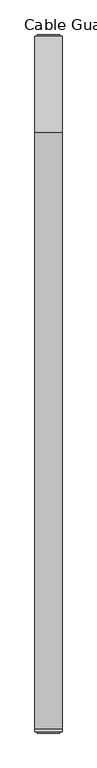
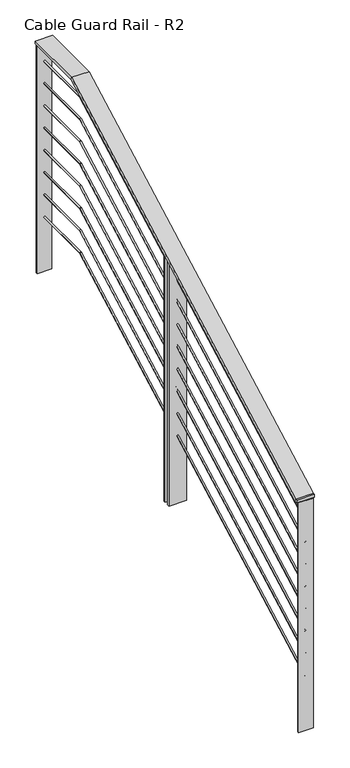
"""IFC4 building model written with IfcOpenShell, lengths in millimetres: railing geometry, Cable Guard Rail - R2."""

from ifc_helpers import new_model, si_unit, frame, origin, place, context, project, spatial, polyline, circle_curve, ellipse_curve, outline, extrude, faceted_brep, source, transform, mapped, element, save
from ifc_brep_helpers import plane_surface, cylinder_surface, advanced_brep


def cable_guard_rail_r2_9b65f9f1(model_context):
    return source(origin(), model_context, "Body", "SolidModel", [
        faceted_brep([(23241.7044304, 188213.6496196, 295014.65), (23241.7044304, 188213.6496196, 295001.95), (23317.9044304, 188213.6496196, 295001.95), (23317.9044304, 188213.6496196, 295014.65), (23241.7044304, 188220.7414421, 295014.65), (23241.7044304, 188223.960099, 295001.95), (23317.9044304, 188223.960099, 295001.95), (23317.9044304, 188220.7414421, 295014.65), (23241.7044304, 189897.1414421, 295922.7), (23241.7044304, 189900.360099, 295910.0), (23317.9044304, 189900.360099, 295910.0), (23317.9044304, 189897.1414421, 295922.7), (23241.7044304, 190169.4496196, 295922.7), (23317.9044304, 190169.4496196, 295922.7), (23317.9044304, 190169.4496196, 295910.0), (23241.7044304, 190169.4496196, 295910.0)], [[[0, 1, 2, 3]], [[1, 0, 4, 5]], [[2, 1, 5, 6]], [[3, 2, 6, 7]], [[0, 3, 7, 4]], [[5, 4, 8, 9]], [[6, 5, 9, 10]], [[7, 6, 10, 11]], [[4, 7, 11, 8]], [[12, 13, 14, 15]], [[9, 8, 12, 15]], [[10, 9, 15, 14]], [[11, 10, 14, 13]], [[8, 11, 13, 12]]]),
        advanced_brep(
        [(23282.9794304, 188213.6496196, 294913.05), (23276.6294304, 188213.6496196, 294913.05), (23282.9794304, 188220.7414421, 294913.05), (23276.6294304, 188220.7414421, 294913.05), (23282.9794304, 189897.1414421, 295821.1), (23276.6294304, 189897.1414421, 295821.1), (23282.9794304, 190169.4496196, 295821.1), (23276.6294304, 190169.4496196, 295821.1)],
        [
            (0, 1, circle_curve(frame((23279.8044304, 188213.6496196, 294913.05), z_axis=(0.0, -1.0, 0.0), x_axis=(-1.0, 0.0, 0.0)), 3.175)),
            (1, 0, circle_curve(frame((23279.8044304, 188213.6496196, 294913.05), z_axis=(0.0, -1.0, 0.0), x_axis=(-1.0, 0.0, 0.0)), 3.175)),
            (0, 2),
            (2, 3, ellipse_curve(frame((23279.8044304, 188220.7414421, 294913.05), z_axis=(0.0, -0.9693533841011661, -0.24567054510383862), x_axis=(0.0, -0.24567054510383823, 0.9693533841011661)), 3.2753793, 3.175)),
            (3, 1),
            (3, 2, ellipse_curve(frame((23279.8044304, 188220.7414421, 294913.05), z_axis=(0.0, -0.9693533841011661, -0.24567054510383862), x_axis=(0.0, -0.24567054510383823, 0.9693533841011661)), 3.2753793, 3.175)),
            (2, 4),
            (4, 5, ellipse_curve(frame((23279.8044304, 189897.1414421, 295821.1), z_axis=(0.0, -0.9693533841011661, -0.24567054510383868), x_axis=(0.0, 0.24567054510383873, -0.969353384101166)), 3.2753793, 3.175)),
            (5, 3),
            (5, 4, ellipse_curve(frame((23279.8044304, 189897.1414421, 295821.1), z_axis=(0.0, -0.9693533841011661, -0.24567054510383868), x_axis=(0.0, 0.24567054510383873, -0.969353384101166)), 3.2753793, 3.175)),
            (6, 7, circle_curve(frame((23279.8044304, 190169.4496196, 295821.1), z_axis=(0.0, 1.0, 0.0), x_axis=(-1.0, 0.0, 0.0)), 3.175)),
            (7, 6, circle_curve(frame((23279.8044304, 190169.4496196, 295821.1), z_axis=(0.0, 1.0, 0.0), x_axis=(-1.0, 0.0, 0.0)), 3.175)),
            (4, 6),
            (7, 5),
        ],
        [
            plane_surface(frame((23279.8044304, 188213.6496196, 294913.05), z_axis=(0.0, -1.0, 0.0), x_axis=(0.0, 0.0, 1.0))),
            cylinder_surface(frame((23279.8044304, 188213.6496196, 294913.05), z_axis=(0.0, -1.0, 0.0), x_axis=(-1.0, 0.0, 0.0)), 3.175),
            cylinder_surface(frame((23279.8044304, 188220.7414421, 294913.05), z_axis=(0.0, -0.8792919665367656, -0.4762831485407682), x_axis=(-1.0, 0.0, 0.0)), 3.175),
            plane_surface(frame((23279.8044304, 190169.4496196, 295821.1), z_axis=(0.0, 1.0, 0.0), x_axis=(0.0, 0.0, 1.0))),
            cylinder_surface(frame((23279.8044304, 189897.1414421, 295821.1), z_axis=(0.0, -1.0, 0.0), x_axis=(-1.0, 0.0, 0.0)), 3.175),
        ],
        [
            (0, [[1, 2]]),
            (1, [[-1, 3, 4, 5]]),
            (1, [[-2, -5, 6, -3]]),
            (2, [[-4, 7, 8, 9]]),
            (2, [[-6, -9, 10, -7]]),
            (3, [[11, 12]]),
            (4, [[-8, 13, -12, 14]]),
            (4, [[-10, -14, -11, -13]]),
        ],
    ),
        advanced_brep(
        [(23282.9794304, 188213.6496196, 294811.45), (23276.6294304, 188213.6496196, 294811.45), (23282.9794304, 188220.7414421, 294811.45), (23276.6294304, 188220.7414421, 294811.45), (23282.9794304, 189897.1414421, 295719.5), (23276.6294304, 189897.1414421, 295719.5), (23282.9794304, 190169.4496196, 295719.5), (23276.6294304, 190169.4496196, 295719.5)],
        [
            (0, 1, circle_curve(frame((23279.8044304, 188213.6496196, 294811.45), z_axis=(0.0, -1.0, 0.0), x_axis=(-1.0, 0.0, 0.0)), 3.175)),
            (1, 0, circle_curve(frame((23279.8044304, 188213.6496196, 294811.45), z_axis=(0.0, -1.0, 0.0), x_axis=(-1.0, 0.0, 0.0)), 3.175)),
            (0, 2),
            (2, 3, ellipse_curve(frame((23279.8044304, 188220.7414421, 294811.45), z_axis=(0.0, -0.9693533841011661, -0.24567054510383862), x_axis=(0.0, -0.24567054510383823, 0.9693533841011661)), 3.2753793, 3.175)),
            (3, 1),
            (3, 2, ellipse_curve(frame((23279.8044304, 188220.7414421, 294811.45), z_axis=(0.0, -0.9693533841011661, -0.24567054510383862), x_axis=(0.0, -0.24567054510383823, 0.9693533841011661)), 3.2753793, 3.175)),
            (2, 4),
            (4, 5, ellipse_curve(frame((23279.8044304, 189897.1414421, 295719.5), z_axis=(0.0, -0.9693533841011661, -0.24567054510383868), x_axis=(0.0, 0.24567054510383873, -0.969353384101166)), 3.2753793, 3.175)),
            (5, 3),
            (5, 4, ellipse_curve(frame((23279.8044304, 189897.1414421, 295719.5), z_axis=(0.0, -0.9693533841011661, -0.24567054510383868), x_axis=(0.0, 0.24567054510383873, -0.969353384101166)), 3.2753793, 3.175)),
            (6, 7, circle_curve(frame((23279.8044304, 190169.4496196, 295719.5), z_axis=(0.0, 1.0, 0.0), x_axis=(-1.0, 0.0, 0.0)), 3.175)),
            (7, 6, circle_curve(frame((23279.8044304, 190169.4496196, 295719.5), z_axis=(0.0, 1.0, 0.0), x_axis=(-1.0, 0.0, 0.0)), 3.175)),
            (4, 6),
            (7, 5),
        ],
        [
            plane_surface(frame((23279.8044304, 188213.6496196, 294811.45), z_axis=(0.0, -1.0, 0.0), x_axis=(0.0, 0.0, 1.0))),
            cylinder_surface(frame((23279.8044304, 188213.6496196, 294811.45), z_axis=(0.0, -1.0, 0.0), x_axis=(-1.0, 0.0, 0.0)), 3.175),
            cylinder_surface(frame((23279.8044304, 188220.7414421, 294811.45), z_axis=(0.0, -0.8792919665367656, -0.4762831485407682), x_axis=(-1.0, 0.0, 0.0)), 3.175),
            plane_surface(frame((23279.8044304, 190169.4496196, 295719.5), z_axis=(0.0, 1.0, 0.0), x_axis=(0.0, 0.0, 1.0))),
            cylinder_surface(frame((23279.8044304, 189897.1414421, 295719.5), z_axis=(0.0, -1.0, 0.0), x_axis=(-1.0, 0.0, 0.0)), 3.175),
        ],
        [
            (0, [[1, 2]]),
            (1, [[-1, 3, 4, 5]]),
            (1, [[-2, -5, 6, -3]]),
            (2, [[-4, 7, 8, 9]]),
            (2, [[-6, -9, 10, -7]]),
            (3, [[11, 12]]),
            (4, [[-8, 13, -12, 14]]),
            (4, [[-10, -14, -11, -13]]),
        ],
    ),
        advanced_brep(
        [(23282.9794304, 188213.6496196, 294709.85), (23276.6294304, 188213.6496196, 294709.85), (23282.9794304, 188220.7414421, 294709.85), (23276.6294304, 188220.7414421, 294709.85), (23282.9794304, 189897.1414421, 295617.9), (23276.6294304, 189897.1414421, 295617.9), (23282.9794304, 190169.4496196, 295617.9), (23276.6294304, 190169.4496196, 295617.9)],
        [
            (0, 1, circle_curve(frame((23279.8044304, 188213.6496196, 294709.85), z_axis=(0.0, -1.0, 0.0), x_axis=(-1.0, 0.0, 0.0)), 3.175)),
            (1, 0, circle_curve(frame((23279.8044304, 188213.6496196, 294709.85), z_axis=(0.0, -1.0, 0.0), x_axis=(-1.0, 0.0, 0.0)), 3.175)),
            (0, 2),
            (2, 3, ellipse_curve(frame((23279.8044304, 188220.7414421, 294709.85), z_axis=(0.0, -0.9693533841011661, -0.24567054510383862), x_axis=(0.0, -0.24567054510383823, 0.9693533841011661)), 3.2753793, 3.175)),
            (3, 1),
            (3, 2, ellipse_curve(frame((23279.8044304, 188220.7414421, 294709.85), z_axis=(0.0, -0.9693533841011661, -0.24567054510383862), x_axis=(0.0, -0.24567054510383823, 0.9693533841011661)), 3.2753793, 3.175)),
            (2, 4),
            (4, 5, ellipse_curve(frame((23279.8044304, 189897.1414421, 295617.9), z_axis=(0.0, -0.9693533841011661, -0.24567054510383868), x_axis=(0.0, 0.24567054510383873, -0.969353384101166)), 3.2753793, 3.175)),
            (5, 3),
            (5, 4, ellipse_curve(frame((23279.8044304, 189897.1414421, 295617.9), z_axis=(0.0, -0.9693533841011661, -0.24567054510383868), x_axis=(0.0, 0.24567054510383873, -0.969353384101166)), 3.2753793, 3.175)),
            (6, 7, circle_curve(frame((23279.8044304, 190169.4496196, 295617.9), z_axis=(0.0, 1.0, 0.0), x_axis=(-1.0, 0.0, 0.0)), 3.175)),
            (7, 6, circle_curve(frame((23279.8044304, 190169.4496196, 295617.9), z_axis=(0.0, 1.0, 0.0), x_axis=(-1.0, 0.0, 0.0)), 3.175)),
            (4, 6),
            (7, 5),
        ],
        [
            plane_surface(frame((23279.8044304, 188213.6496196, 294709.85), z_axis=(0.0, -1.0, 0.0), x_axis=(0.0, 0.0, 1.0))),
            cylinder_surface(frame((23279.8044304, 188213.6496196, 294709.85), z_axis=(0.0, -1.0, 0.0), x_axis=(-1.0, 0.0, 0.0)), 3.175),
            cylinder_surface(frame((23279.8044304, 188220.7414421, 294709.85), z_axis=(0.0, -0.8792919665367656, -0.4762831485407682), x_axis=(-1.0, 0.0, 0.0)), 3.175),
            plane_surface(frame((23279.8044304, 190169.4496196, 295617.9), z_axis=(0.0, 1.0, 0.0), x_axis=(0.0, 0.0, 1.0))),
            cylinder_surface(frame((23279.8044304, 189897.1414421, 295617.9), z_axis=(0.0, -1.0, 0.0), x_axis=(-1.0, 0.0, 0.0)), 3.175),
        ],
        [
            (0, [[1, 2]]),
            (1, [[-1, 3, 4, 5]]),
            (1, [[-2, -5, 6, -3]]),
            (2, [[-4, 7, 8, 9]]),
            (2, [[-6, -9, 10, -7]]),
            (3, [[11, 12]]),
            (4, [[-8, 13, -12, 14]]),
            (4, [[-10, -14, -11, -13]]),
        ],
    ),
        advanced_brep(
        [(23282.9794304, 188213.6496196, 294608.25), (23276.6294304, 188213.6496196, 294608.25), (23282.9794304, 188220.7414421, 294608.25), (23276.6294304, 188220.7414421, 294608.25), (23282.9794304, 189897.1414421, 295516.3), (23276.6294304, 189897.1414421, 295516.3), (23282.9794304, 190169.4496196, 295516.3), (23276.6294304, 190169.4496196, 295516.3)],
        [
            (0, 1, circle_curve(frame((23279.8044304, 188213.6496196, 294608.25), z_axis=(0.0, -1.0, 0.0), x_axis=(-1.0, 0.0, 0.0)), 3.175)),
            (1, 0, circle_curve(frame((23279.8044304, 188213.6496196, 294608.25), z_axis=(0.0, -1.0, 0.0), x_axis=(-1.0, 0.0, 0.0)), 3.175)),
            (0, 2),
            (2, 3, ellipse_curve(frame((23279.8044304, 188220.7414421, 294608.25), z_axis=(0.0, -0.9693533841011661, -0.24567054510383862), x_axis=(0.0, -0.24567054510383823, 0.9693533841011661)), 3.2753793, 3.175)),
            (3, 1),
            (3, 2, ellipse_curve(frame((23279.8044304, 188220.7414421, 294608.25), z_axis=(0.0, -0.9693533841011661, -0.24567054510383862), x_axis=(0.0, -0.24567054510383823, 0.9693533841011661)), 3.2753793, 3.175)),
            (2, 4),
            (4, 5, ellipse_curve(frame((23279.8044304, 189897.1414421, 295516.3), z_axis=(0.0, -0.9693533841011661, -0.24567054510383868), x_axis=(0.0, 0.24567054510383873, -0.969353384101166)), 3.2753793, 3.175)),
            (5, 3),
            (5, 4, ellipse_curve(frame((23279.8044304, 189897.1414421, 295516.3), z_axis=(0.0, -0.9693533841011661, -0.24567054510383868), x_axis=(0.0, 0.24567054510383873, -0.969353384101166)), 3.2753793, 3.175)),
            (6, 7, circle_curve(frame((23279.8044304, 190169.4496196, 295516.3), z_axis=(0.0, 1.0, 0.0), x_axis=(-1.0, 0.0, 0.0)), 3.175)),
            (7, 6, circle_curve(frame((23279.8044304, 190169.4496196, 295516.3), z_axis=(0.0, 1.0, 0.0), x_axis=(-1.0, 0.0, 0.0)), 3.175)),
            (4, 6),
            (7, 5),
        ],
        [
            plane_surface(frame((23279.8044304, 188213.6496196, 294608.25), z_axis=(0.0, -1.0, 0.0), x_axis=(0.0, 0.0, 1.0))),
            cylinder_surface(frame((23279.8044304, 188213.6496196, 294608.25), z_axis=(0.0, -1.0, 0.0), x_axis=(-1.0, 0.0, 0.0)), 3.175),
            cylinder_surface(frame((23279.8044304, 188220.7414421, 294608.25), z_axis=(0.0, -0.8792919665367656, -0.4762831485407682), x_axis=(-1.0, 0.0, 0.0)), 3.175),
            plane_surface(frame((23279.8044304, 190169.4496196, 295516.3), z_axis=(0.0, 1.0, 0.0), x_axis=(0.0, 0.0, 1.0))),
            cylinder_surface(frame((23279.8044304, 189897.1414421, 295516.3), z_axis=(0.0, -1.0, 0.0), x_axis=(-1.0, 0.0, 0.0)), 3.175),
        ],
        [
            (0, [[1, 2]]),
            (1, [[-1, 3, 4, 5]]),
            (1, [[-2, -5, 6, -3]]),
            (2, [[-4, 7, 8, 9]]),
            (2, [[-6, -9, 10, -7]]),
            (3, [[11, 12]]),
            (4, [[-8, 13, -12, 14]]),
            (4, [[-10, -14, -11, -13]]),
        ],
    ),
        advanced_brep(
        [(23282.9794304, 188213.6496196, 294506.65), (23276.6294304, 188213.6496196, 294506.65), (23282.9794304, 188220.7414421, 294506.65), (23276.6294304, 188220.7414421, 294506.65), (23282.9794304, 189897.1414421, 295414.7), (23276.6294304, 189897.1414421, 295414.7), (23282.9794304, 190169.4496196, 295414.7), (23276.6294304, 190169.4496196, 295414.7)],
        [
            (0, 1, circle_curve(frame((23279.8044304, 188213.6496196, 294506.65), z_axis=(0.0, -1.0, 0.0), x_axis=(-1.0, 0.0, 0.0)), 3.175)),
            (1, 0, circle_curve(frame((23279.8044304, 188213.6496196, 294506.65), z_axis=(0.0, -1.0, 0.0), x_axis=(-1.0, 0.0, 0.0)), 3.175)),
            (0, 2),
            (2, 3, ellipse_curve(frame((23279.8044304, 188220.7414421, 294506.65), z_axis=(0.0, -0.9693533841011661, -0.24567054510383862), x_axis=(0.0, -0.24567054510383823, 0.9693533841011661)), 3.2753793, 3.175)),
            (3, 1),
            (3, 2, ellipse_curve(frame((23279.8044304, 188220.7414421, 294506.65), z_axis=(0.0, -0.9693533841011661, -0.24567054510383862), x_axis=(0.0, -0.24567054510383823, 0.9693533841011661)), 3.2753793, 3.175)),
            (2, 4),
            (4, 5, ellipse_curve(frame((23279.8044304, 189897.1414421, 295414.7), z_axis=(0.0, -0.9693533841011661, -0.24567054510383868), x_axis=(0.0, 0.24567054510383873, -0.969353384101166)), 3.2753793, 3.175)),
            (5, 3),
            (5, 4, ellipse_curve(frame((23279.8044304, 189897.1414421, 295414.7), z_axis=(0.0, -0.9693533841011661, -0.24567054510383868), x_axis=(0.0, 0.24567054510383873, -0.969353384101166)), 3.2753793, 3.175)),
            (6, 7, circle_curve(frame((23279.8044304, 190169.4496196, 295414.7), z_axis=(0.0, 1.0, 0.0), x_axis=(-1.0, 0.0, 0.0)), 3.175)),
            (7, 6, circle_curve(frame((23279.8044304, 190169.4496196, 295414.7), z_axis=(0.0, 1.0, 0.0), x_axis=(-1.0, 0.0, 0.0)), 3.175)),
            (4, 6),
            (7, 5),
        ],
        [
            plane_surface(frame((23279.8044304, 188213.6496196, 294506.65), z_axis=(0.0, -1.0, 0.0), x_axis=(0.0, 0.0, 1.0))),
            cylinder_surface(frame((23279.8044304, 188213.6496196, 294506.65), z_axis=(0.0, -1.0, 0.0), x_axis=(-1.0, 0.0, 0.0)), 3.175),
            cylinder_surface(frame((23279.8044304, 188220.7414421, 294506.65), z_axis=(0.0, -0.8792919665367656, -0.4762831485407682), x_axis=(-1.0, 0.0, 0.0)), 3.175),
            plane_surface(frame((23279.8044304, 190169.4496196, 295414.7), z_axis=(0.0, 1.0, 0.0), x_axis=(0.0, 0.0, 1.0))),
            cylinder_surface(frame((23279.8044304, 189897.1414421, 295414.7), z_axis=(0.0, -1.0, 0.0), x_axis=(-1.0, 0.0, 0.0)), 3.175),
        ],
        [
            (0, [[1, 2]]),
            (1, [[-1, 3, 4, 5]]),
            (1, [[-2, -5, 6, -3]]),
            (2, [[-4, 7, 8, 9]]),
            (2, [[-6, -9, 10, -7]]),
            (3, [[11, 12]]),
            (4, [[-8, 13, -12, 14]]),
            (4, [[-10, -14, -11, -13]]),
        ],
    ),
        advanced_brep(
        [(23282.9794304, 188213.6496196, 294405.05), (23276.6294304, 188213.6496196, 294405.05), (23282.9794304, 188220.7414421, 294405.05), (23276.6294304, 188220.7414421, 294405.05), (23282.9794304, 189897.1414421, 295313.1), (23276.6294304, 189897.1414421, 295313.1), (23282.9794304, 190169.4496196, 295313.1), (23276.6294304, 190169.4496196, 295313.1)],
        [
            (0, 1, circle_curve(frame((23279.8044304, 188213.6496196, 294405.05), z_axis=(0.0, -1.0, 0.0), x_axis=(-1.0, 0.0, 0.0)), 3.175)),
            (1, 0, circle_curve(frame((23279.8044304, 188213.6496196, 294405.05), z_axis=(0.0, -1.0, 0.0), x_axis=(-1.0, 0.0, 0.0)), 3.175)),
            (0, 2),
            (2, 3, ellipse_curve(frame((23279.8044304, 188220.7414421, 294405.05), z_axis=(0.0, -0.9693533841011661, -0.24567054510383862), x_axis=(0.0, -0.24567054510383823, 0.9693533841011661)), 3.2753793, 3.175)),
            (3, 1),
            (3, 2, ellipse_curve(frame((23279.8044304, 188220.7414421, 294405.05), z_axis=(0.0, -0.9693533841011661, -0.24567054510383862), x_axis=(0.0, -0.24567054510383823, 0.9693533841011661)), 3.2753793, 3.175)),
            (2, 4),
            (4, 5, ellipse_curve(frame((23279.8044304, 189897.1414421, 295313.1), z_axis=(0.0, -0.9693533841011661, -0.24567054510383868), x_axis=(0.0, 0.24567054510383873, -0.969353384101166)), 3.2753793, 3.175)),
            (5, 3),
            (5, 4, ellipse_curve(frame((23279.8044304, 189897.1414421, 295313.1), z_axis=(0.0, -0.9693533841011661, -0.24567054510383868), x_axis=(0.0, 0.24567054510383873, -0.969353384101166)), 3.2753793, 3.175)),
            (6, 7, circle_curve(frame((23279.8044304, 190169.4496196, 295313.1), z_axis=(0.0, 1.0, 0.0), x_axis=(-1.0, 0.0, 0.0)), 3.175)),
            (7, 6, circle_curve(frame((23279.8044304, 190169.4496196, 295313.1), z_axis=(0.0, 1.0, 0.0), x_axis=(-1.0, 0.0, 0.0)), 3.175)),
            (4, 6),
            (7, 5),
        ],
        [
            plane_surface(frame((23279.8044304, 188213.6496196, 294405.05), z_axis=(0.0, -1.0, 0.0), x_axis=(0.0, 0.0, 1.0))),
            cylinder_surface(frame((23279.8044304, 188213.6496196, 294405.05), z_axis=(0.0, -1.0, 0.0), x_axis=(-1.0, 0.0, 0.0)), 3.175),
            cylinder_surface(frame((23279.8044304, 188220.7414421, 294405.05), z_axis=(0.0, -0.8792919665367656, -0.4762831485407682), x_axis=(-1.0, 0.0, 0.0)), 3.175),
            plane_surface(frame((23279.8044304, 190169.4496196, 295313.1), z_axis=(0.0, 1.0, 0.0), x_axis=(0.0, 0.0, 1.0))),
            cylinder_surface(frame((23279.8044304, 189897.1414421, 295313.1), z_axis=(0.0, -1.0, 0.0), x_axis=(-1.0, 0.0, 0.0)), 3.175),
        ],
        [
            (0, [[1, 2]]),
            (1, [[-1, 3, 4, 5]]),
            (1, [[-2, -5, 6, -3]]),
            (2, [[-4, 7, 8, 9]]),
            (2, [[-6, -9, 10, -7]]),
            (3, [[11, 12]]),
            (4, [[-8, 13, -12, 14]]),
            (4, [[-10, -14, -11, -13]]),
        ],
    ),
        advanced_brep(
        [(23282.9794304, 188213.6496196, 294303.45), (23276.6294304, 188213.6496196, 294303.45), (23282.9794304, 188220.7414421, 294303.45), (23276.6294304, 188220.7414421, 294303.45), (23282.9794304, 189897.1414421, 295211.5), (23276.6294304, 189897.1414421, 295211.5), (23282.9794304, 190169.4496196, 295211.5), (23276.6294304, 190169.4496196, 295211.5)],
        [
            (0, 1, circle_curve(frame((23279.8044304, 188213.6496196, 294303.45), z_axis=(0.0, -1.0, 0.0), x_axis=(-1.0, 0.0, 0.0)), 3.175)),
            (1, 0, circle_curve(frame((23279.8044304, 188213.6496196, 294303.45), z_axis=(0.0, -1.0, 0.0), x_axis=(-1.0, 0.0, 0.0)), 3.175)),
            (0, 2),
            (2, 3, ellipse_curve(frame((23279.8044304, 188220.7414421, 294303.45), z_axis=(0.0, -0.9693533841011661, -0.24567054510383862), x_axis=(0.0, -0.24567054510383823, 0.9693533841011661)), 3.2753793, 3.175)),
            (3, 1),
            (3, 2, ellipse_curve(frame((23279.8044304, 188220.7414421, 294303.45), z_axis=(0.0, -0.9693533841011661, -0.24567054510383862), x_axis=(0.0, -0.24567054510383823, 0.9693533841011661)), 3.2753793, 3.175)),
            (2, 4),
            (4, 5, ellipse_curve(frame((23279.8044304, 189897.1414421, 295211.5), z_axis=(0.0, -0.9693533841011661, -0.24567054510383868), x_axis=(0.0, 0.24567054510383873, -0.969353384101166)), 3.2753793, 3.175)),
            (5, 3),
            (5, 4, ellipse_curve(frame((23279.8044304, 189897.1414421, 295211.5), z_axis=(0.0, -0.9693533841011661, -0.24567054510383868), x_axis=(0.0, 0.24567054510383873, -0.969353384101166)), 3.2753793, 3.175)),
            (6, 7, circle_curve(frame((23279.8044304, 190169.4496196, 295211.5), z_axis=(0.0, 1.0, 0.0), x_axis=(-1.0, 0.0, 0.0)), 3.175)),
            (7, 6, circle_curve(frame((23279.8044304, 190169.4496196, 295211.5), z_axis=(0.0, 1.0, 0.0), x_axis=(-1.0, 0.0, 0.0)), 3.175)),
            (4, 6),
            (7, 5),
        ],
        [
            plane_surface(frame((23279.8044304, 188213.6496196, 294303.45), z_axis=(0.0, -1.0, 0.0), x_axis=(0.0, 0.0, 1.0))),
            cylinder_surface(frame((23279.8044304, 188213.6496196, 294303.45), z_axis=(0.0, -1.0, 0.0), x_axis=(-1.0, 0.0, 0.0)), 3.175),
            cylinder_surface(frame((23279.8044304, 188220.7414421, 294303.45), z_axis=(0.0, -0.8792919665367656, -0.4762831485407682), x_axis=(-1.0, 0.0, 0.0)), 3.175),
            plane_surface(frame((23279.8044304, 190169.4496196, 295211.5), z_axis=(0.0, 1.0, 0.0), x_axis=(0.0, 0.0, 1.0))),
            cylinder_surface(frame((23279.8044304, 189897.1414421, 295211.5), z_axis=(0.0, -1.0, 0.0), x_axis=(-1.0, 0.0, 0.0)), 3.175),
        ],
        [
            (0, [[1, 2]]),
            (1, [[-1, 3, 4, 5]]),
            (1, [[-2, -5, 6, -3]]),
            (2, [[-4, 7, 8, 9]]),
            (2, [[-6, -9, 10, -7]]),
            (3, [[11, 12]]),
            (4, [[-8, 13, -12, 14]]),
            (4, [[-10, -14, -11, -13]]),
        ],
    ),
        advanced_brep(
        [(23282.9794304, 188213.6496196, 294201.85), (23276.6294304, 188213.6496196, 294201.85), (23282.9794304, 188220.7414421, 294201.85), (23276.6294304, 188220.7414421, 294201.85), (23282.9794304, 189897.1414421, 295109.9), (23276.6294304, 189897.1414421, 295109.9), (23282.9794304, 190169.4496196, 295109.9), (23276.6294304, 190169.4496196, 295109.9)],
        [
            (0, 1, circle_curve(frame((23279.8044304, 188213.6496196, 294201.85), z_axis=(0.0, -1.0, 0.0), x_axis=(-1.0, 0.0, 0.0)), 3.175)),
            (1, 0, circle_curve(frame((23279.8044304, 188213.6496196, 294201.85), z_axis=(0.0, -1.0, 0.0), x_axis=(-1.0, 0.0, 0.0)), 3.175)),
            (0, 2),
            (2, 3, ellipse_curve(frame((23279.8044304, 188220.7414421, 294201.85), z_axis=(0.0, -0.9693533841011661, -0.24567054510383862), x_axis=(0.0, -0.24567054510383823, 0.9693533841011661)), 3.2753793, 3.175)),
            (3, 1),
            (3, 2, ellipse_curve(frame((23279.8044304, 188220.7414421, 294201.85), z_axis=(0.0, -0.9693533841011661, -0.24567054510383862), x_axis=(0.0, -0.24567054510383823, 0.9693533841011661)), 3.2753793, 3.175)),
            (2, 4),
            (4, 5, ellipse_curve(frame((23279.8044304, 189897.1414421, 295109.9), z_axis=(0.0, -0.9693533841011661, -0.24567054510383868), x_axis=(0.0, 0.24567054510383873, -0.969353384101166)), 3.2753793, 3.175)),
            (5, 3),
            (5, 4, ellipse_curve(frame((23279.8044304, 189897.1414421, 295109.9), z_axis=(0.0, -0.9693533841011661, -0.24567054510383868), x_axis=(0.0, 0.24567054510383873, -0.969353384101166)), 3.2753793, 3.175)),
            (6, 7, circle_curve(frame((23279.8044304, 190169.4496196, 295109.9), z_axis=(0.0, 1.0, 0.0), x_axis=(-1.0, 0.0, 0.0)), 3.175)),
            (7, 6, circle_curve(frame((23279.8044304, 190169.4496196, 295109.9), z_axis=(0.0, 1.0, 0.0), x_axis=(-1.0, 0.0, 0.0)), 3.175)),
            (4, 6),
            (7, 5),
        ],
        [
            plane_surface(frame((23279.8044304, 188213.6496196, 294201.85), z_axis=(0.0, -1.0, 0.0), x_axis=(0.0, 0.0, 1.0))),
            cylinder_surface(frame((23279.8044304, 188213.6496196, 294201.85), z_axis=(0.0, -1.0, 0.0), x_axis=(-1.0, 0.0, 0.0)), 3.175),
            cylinder_surface(frame((23279.8044304, 188220.7414421, 294201.85), z_axis=(0.0, -0.8792919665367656, -0.4762831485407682), x_axis=(-1.0, 0.0, 0.0)), 3.175),
            plane_surface(frame((23279.8044304, 190169.4496196, 295109.9), z_axis=(0.0, 1.0, 0.0), x_axis=(0.0, 0.0, 1.0))),
            cylinder_surface(frame((23279.8044304, 189897.1414421, 295109.9), z_axis=(0.0, -1.0, 0.0), x_axis=(-1.0, 0.0, 0.0)), 3.175),
        ],
        [
            (0, [[1, 2]]),
            (1, [[-1, 3, 4, 5]]),
            (1, [[-2, -5, 6, -3]]),
            (2, [[-4, 7, 8, 9]]),
            (2, [[-6, -9, 10, -7]]),
            (3, [[11, 12]]),
            (4, [[-8, 13, -12, 14]]),
            (4, [[-10, -14, -11, -13]]),
        ],
    ),
        extrude(outline(polyline([(23317.9044304, 189169.3246196), (23241.7044304, 189169.3246196), (23241.7044304, 189178.8496196), (23317.9044304, 189178.8496196), (23317.9044304, 189169.3246196)])), frame((0.0, 0.0, 294408.225), z_axis=(0.0, 0.0, 1.0), x_axis=(1.0, 0.0, 0.0)), (0.0, 0.0, 1.0), 1119.5794295),
        extrude(outline(polyline([(23317.9044304, 189197.8996196), (23241.7044304, 189197.8996196), (23241.7044304, 189207.3763842), (23317.9044304, 189207.3763842), (23317.9044304, 189197.8996196)])), frame((0.0, 0.0, 294408.225), z_axis=(0.0, 0.0, 1.0), x_axis=(1.0, 0.0, 0.0)), (0.0, 0.0, 1.0), 1119.5794295),
        extrude(outline(polyline([(23311.5544304, 190166.2746196), (23248.0544304, 190166.2746196), (23248.0544304, 190172.6246196), (23311.5544304, 190172.6246196), (23311.5544304, 190166.2746196)])), frame((0.0, 0.0, 294862.25), z_axis=(0.0, 0.0, 1.0), x_axis=(1.0, 0.0, 0.0)), (0.0, 0.0, 1.0), 1047.75),
        extrude(outline(polyline([(23311.5544304, 188210.4746196), (23248.0544304, 188210.4746196), (23248.0544304, 188216.8246196), (23311.5544304, 188216.8246196), (23311.5544304, 188210.4746196)])), frame((0.0, 0.0, 293954.2), z_axis=(0.0, 0.0, 1.0), x_axis=(1.0, 0.0, 0.0)), (0.0, 0.0, 1.0), 1047.75),
    ])


if __name__ == "__main__":
    model = new_model("IFC4")
    model_context = context("Model", 3, world=origin())
    ifc_project = project(units=[si_unit("LENGTHUNIT", "METRE", prefix="MILLI")], contexts=[model_context])
    site = spatial("IfcSite", under=ifc_project)
    building = spatial("IfcBuilding", under=site)
    placement = place(None, origin())
    cable_guard_rail_r2_shape = cable_guard_rail_r2_9b65f9f1(model_context)
    element("IfcRailing", 1, ObjectType="Cable Guard Rail - R2", at=placement, inside=building, context=model_context, shape_type="MappedRepresentation", body=[
        mapped(cable_guard_rail_r2_shape, transform((0.0, 0.0, 0.0), x_axis=(1.0, 0.0, 0.0), y_axis=(0.0, 1.0, 0.0), z_axis=(0.0, 0.0, 1.0))),
    ])
    save(model, "model.ifc")
